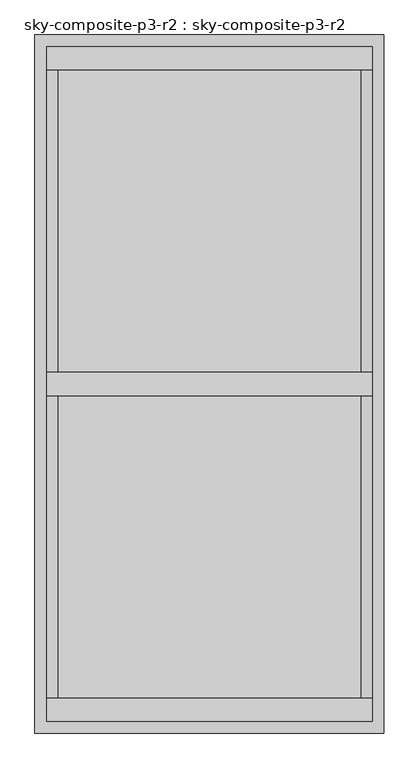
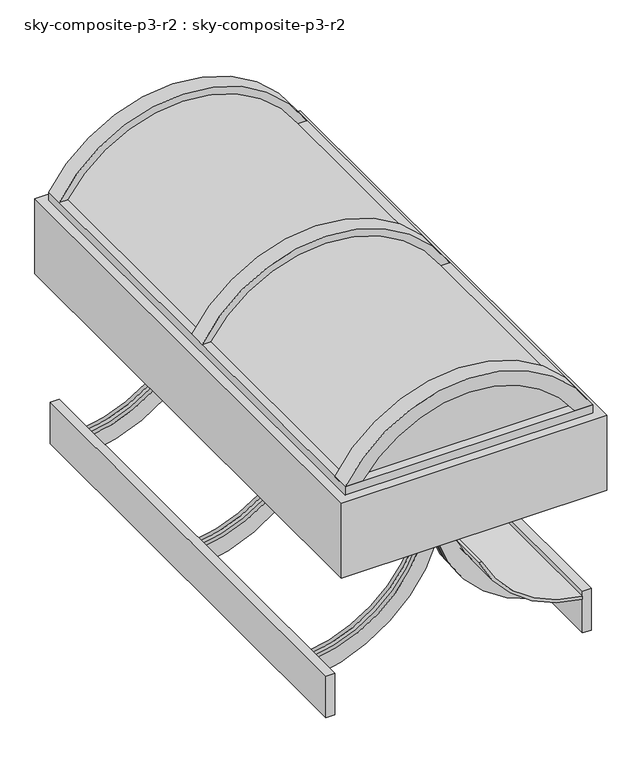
"""IFC4 building model written with IfcOpenShell, lengths in millimetres: proxy geometry, sky-composite-p3-r2 : sky-composite-p3-r2."""

from ifc_helpers import new_model, si_unit, point, frame, frame_2d, origin, place, context, project, spatial, polyline, circle_curve, trimmed, segment, composite_curve, outline, extrude, source, transform, mapped, element, save


def sky_composite_p3_r2_sky_composite_p3_r2_fa0c1734(model_context):
    return source(origin(), model_context, "Body", "SweptSolid", [
        extrude(outline(composite_curve([segment(polyline([(3225.8, 711.2), (3244.85, 711.2)]), True, "CONTINUOUS"), segment(trimmed(circle_curve(frame_2d((3952.7013555, 781.2886484)), 711.3128427), [point((3244.85, 711.2))], [point((3657.6, 134.0783656))], True, "CARTESIAN"), True, "CONTINUOUS"), segment(polyline([(3657.6, 134.0783656), (3657.6, 115.0283656)]), True, "CONTINUOUS"), segment(trimmed(circle_curve(frame_2d((3967.397296, 793.8704606)), 746.1909638), [point((3657.6, 115.0283656))], [point((3225.8, 711.2))], False, "CARTESIAN"), True, "CONTINUOUS")], self_intersect=False)), frame((0.0, -1371.6, 0.0), z_axis=(0.0, 1.0, 0.0), x_axis=(0.0, 0.0, 1.0)), (0.0, 0.0, 1.0), 2743.2),
        extrude(outline(polyline([(-711.2, -1371.6), (-762.0, -1371.6), (-762.0, 1371.6), (-711.2, 1371.6), (-711.2, -1371.6)])), frame((0.0, 0.0, 3022.6), z_axis=(0.0, 0.0, 1.0), x_axis=(1.0, 0.0, 0.0)), (0.0, 0.0, 1.0), 254.0),
        extrude(outline(polyline([(762.0, -1371.6), (711.2, -1371.6), (711.2, 1371.6), (762.0, 1371.6), (762.0, -1371.6)])), frame((0.0, 0.0, 3022.6), z_axis=(0.0, 0.0, 1.0), x_axis=(1.0, 0.0, 0.0)), (0.0, 0.0, 1.0), 254.0),
        extrude(outline(composite_curve([segment(polyline([(3225.8, -711.2), (3124.2, -711.2)]), True, "CONTINUOUS"), segment(trimmed(circle_curve(frame_2d((3965.0062096, -804.0034828)), 845.91227), [point((3124.2, -711.2))], [point((3702.05, 0.0))], False, "CARTESIAN"), True, "CONTINUOUS"), segment(trimmed(circle_curve(frame_2d((3934.8631689, 779.5122622)), 813.5363167), [point((3702.05, 0.0))], [point((3124.2, 711.2))], False, "CARTESIAN"), True, "CONTINUOUS"), segment(polyline([(3124.2, 711.2), (3225.8, 711.2)]), True, "CONTINUOUS"), segment(trimmed(circle_curve(frame_2d((3958.4491211, 787.3894043)), 736.6), [point((3225.8, 711.2))], [point((3962.4, 50.8))], True, "CARTESIAN"), True, "CONTINUOUS"), segment(polyline([(3962.4, 50.8), (3962.4, -50.8)]), True, "CONTINUOUS"), segment(trimmed(circle_curve(frame_2d((3958.4491211, -787.3894043)), 736.6), [point((3962.4, -50.8))], [point((3225.8, -711.2))], True, "CARTESIAN"), True, "CONTINUOUS")], self_intersect=False)), frame((0.0, 1130.3, 0.0), z_axis=(0.0, 1.0, 0.0), x_axis=(0.0, 0.0, 1.0)), (0.0, 0.0, 1.0), 25.4),
        extrude(outline(composite_curve([segment(polyline([(3225.8, -711.2), (3124.2, -711.2)]), True, "CONTINUOUS"), segment(trimmed(circle_curve(frame_2d((3965.0062096, -804.0034828)), 845.91227), [point((3124.2, -711.2))], [point((3702.05, 0.0))], False, "CARTESIAN"), True, "CONTINUOUS"), segment(trimmed(circle_curve(frame_2d((3934.8631689, 779.5122622)), 813.5363167), [point((3702.05, 0.0))], [point((3124.2, 711.2))], False, "CARTESIAN"), True, "CONTINUOUS"), segment(polyline([(3124.2, 711.2), (3225.8, 711.2)]), True, "CONTINUOUS"), segment(trimmed(circle_curve(frame_2d((3958.4491211, 787.3894043)), 736.6), [point((3225.8, 711.2))], [point((3962.4, 50.8))], True, "CARTESIAN"), True, "CONTINUOUS"), segment(polyline([(3962.4, 50.8), (3962.4, -50.8)]), True, "CONTINUOUS"), segment(trimmed(circle_curve(frame_2d((3958.4491211, -787.3894043)), 736.6), [point((3962.4, -50.8))], [point((3225.8, -711.2))], True, "CARTESIAN"), True, "CONTINUOUS")], self_intersect=False)), frame((0.0, 1079.5, 0.0), z_axis=(0.0, 1.0, 0.0), x_axis=(0.0, 0.0, 1.0)), (0.0, 0.0, 1.0), 25.4),
        extrude(outline(composite_curve([segment(polyline([(3225.8, -711.2), (3124.2, -711.2)]), True, "CONTINUOUS"), segment(trimmed(circle_curve(frame_2d((3965.0062096, -804.0034828)), 845.91227), [point((3124.2, -711.2))], [point((3702.05, 0.0))], False, "CARTESIAN"), True, "CONTINUOUS"), segment(trimmed(circle_curve(frame_2d((3934.8631689, 779.5122622)), 813.5363167), [point((3702.05, 0.0))], [point((3124.2, 711.2))], False, "CARTESIAN"), True, "CONTINUOUS"), segment(polyline([(3124.2, 711.2), (3225.8, 711.2)]), True, "CONTINUOUS"), segment(trimmed(circle_curve(frame_2d((3958.4491211, 787.3894043)), 736.6), [point((3225.8, 711.2))], [point((3962.4, 50.8))], True, "CARTESIAN"), True, "CONTINUOUS"), segment(polyline([(3962.4, 50.8), (3962.4, -50.8)]), True, "CONTINUOUS"), segment(trimmed(circle_curve(frame_2d((3958.4491211, -787.3894043)), 736.6), [point((3962.4, -50.8))], [point((3225.8, -711.2))], True, "CARTESIAN"), True, "CONTINUOUS")], self_intersect=False)), frame((0.0, 12.7, 0.0), z_axis=(0.0, 1.0, 0.0), x_axis=(0.0, 0.0, 1.0)), (0.0, 0.0, 1.0), 25.4),
        extrude(outline(composite_curve([segment(polyline([(3225.8, -711.2), (3124.2, -711.2)]), True, "CONTINUOUS"), segment(trimmed(circle_curve(frame_2d((3965.0062096, -804.0034828)), 845.91227), [point((3124.2, -711.2))], [point((3702.05, 0.0))], False, "CARTESIAN"), True, "CONTINUOUS"), segment(trimmed(circle_curve(frame_2d((3934.8631689, 779.5122622)), 813.5363167), [point((3702.05, 0.0))], [point((3124.2, 711.2))], False, "CARTESIAN"), True, "CONTINUOUS"), segment(polyline([(3124.2, 711.2), (3225.8, 711.2)]), True, "CONTINUOUS"), segment(trimmed(circle_curve(frame_2d((3958.4491211, 787.3894043)), 736.6), [point((3225.8, 711.2))], [point((3962.4, 50.8))], True, "CARTESIAN"), True, "CONTINUOUS"), segment(polyline([(3962.4, 50.8), (3962.4, -50.8)]), True, "CONTINUOUS"), segment(trimmed(circle_curve(frame_2d((3958.4491211, -787.3894043)), 736.6), [point((3962.4, -50.8))], [point((3225.8, -711.2))], True, "CARTESIAN"), True, "CONTINUOUS")], self_intersect=False)), frame((0.0, -38.1, 0.0), z_axis=(0.0, 1.0, 0.0), x_axis=(0.0, 0.0, 1.0)), (0.0, 0.0, 1.0), 25.4),
        extrude(outline(composite_curve([segment(polyline([(3225.8, -711.2), (3124.2, -711.2)]), True, "CONTINUOUS"), segment(trimmed(circle_curve(frame_2d((3965.0062096, -804.0034828)), 845.91227), [point((3124.2, -711.2))], [point((3702.05, 0.0))], False, "CARTESIAN"), True, "CONTINUOUS"), segment(trimmed(circle_curve(frame_2d((3934.8631689, 779.5122622)), 813.5363167), [point((3702.05, 0.0))], [point((3124.2, 711.2))], False, "CARTESIAN"), True, "CONTINUOUS"), segment(polyline([(3124.2, 711.2), (3225.8, 711.2)]), True, "CONTINUOUS"), segment(trimmed(circle_curve(frame_2d((3958.4491211, 787.3894043)), 736.6), [point((3225.8, 711.2))], [point((3962.4, 50.8))], True, "CARTESIAN"), True, "CONTINUOUS"), segment(polyline([(3962.4, 50.8), (3962.4, -50.8)]), True, "CONTINUOUS"), segment(trimmed(circle_curve(frame_2d((3958.4491211, -787.3894043)), 736.6), [point((3962.4, -50.8))], [point((3225.8, -711.2))], True, "CARTESIAN"), True, "CONTINUOUS")], self_intersect=False)), frame((0.0, -1104.9, 0.0), z_axis=(0.0, 1.0, 0.0), x_axis=(0.0, 0.0, 1.0)), (0.0, 0.0, 1.0), 25.4),
        extrude(outline(composite_curve([segment(polyline([(3225.8, -711.2), (3124.2, -711.2)]), True, "CONTINUOUS"), segment(trimmed(circle_curve(frame_2d((3965.0062096, -804.0034828)), 845.91227), [point((3124.2, -711.2))], [point((3702.05, 0.0))], False, "CARTESIAN"), True, "CONTINUOUS"), segment(trimmed(circle_curve(frame_2d((3934.8631689, 779.5122622)), 813.5363167), [point((3702.05, 0.0))], [point((3124.2, 711.2))], False, "CARTESIAN"), True, "CONTINUOUS"), segment(polyline([(3124.2, 711.2), (3225.8, 711.2)]), True, "CONTINUOUS"), segment(trimmed(circle_curve(frame_2d((3958.4491211, 787.3894043)), 736.6), [point((3225.8, 711.2))], [point((3962.4, 50.8))], True, "CARTESIAN"), True, "CONTINUOUS"), segment(polyline([(3962.4, 50.8), (3962.4, -50.8)]), True, "CONTINUOUS"), segment(trimmed(circle_curve(frame_2d((3958.4491211, -787.3894043)), 736.6), [point((3962.4, -50.8))], [point((3225.8, -711.2))], True, "CARTESIAN"), True, "CONTINUOUS")], self_intersect=False)), frame((0.0, -1155.7, 0.0), z_axis=(0.0, 1.0, 0.0), x_axis=(0.0, 0.0, 1.0)), (0.0, 0.0, 1.0), 25.4),
        extrude(outline(polyline([(3987.8, -76.2), (3962.4, -76.2), (3962.4, 76.2), (3987.8, 76.2), (3987.8, 12.7), (4191.0, 12.7), (4191.0, 76.2), (4216.4, 76.2), (4216.4, -76.2), (4191.0, -76.2), (4191.0, -12.7), (3987.8, -12.7), (3987.8, -76.2)])), frame((0.0, -1371.6, 0.0), z_axis=(0.0, 1.0, 0.0), x_axis=(0.0, 0.0, 1.0)), (0.0, 0.0, 1.0), 2743.2),
        extrude(outline(composite_curve([segment(trimmed(circle_curve(frame_2d((4053.564783, 0.0)), 738.48748), [point((4470.4, 609.6))], [point((4470.4, -609.6))], False, "CARTESIAN"), True, "CONTINUOUS"), segment(polyline([(4470.4, -609.6), (4470.4, 609.6)]), True, "CONTINUOUS")], self_intersect=False)), frame((0.0, 1397.0, 0.0), z_axis=(0.0, 1.0, 0.0), x_axis=(0.0, 0.0, 1.0)), (0.0, 0.0, 1.0), 25.4),
        extrude(outline(composite_curve([segment(trimmed(circle_curve(frame_2d((4055.5049513, 0.0)), 737.3941018), [point((4470.4, 609.6))], [point((4470.4, -609.6))], False, "CARTESIAN"), True, "CONTINUOUS"), segment(polyline([(4470.4, -609.6), (4470.4, 609.6)]), True, "CONTINUOUS")], self_intersect=False)), frame((0.0, -1422.4, 0.0), z_axis=(0.0, 1.0, 0.0), x_axis=(0.0, 0.0, 1.0)), (0.0, 0.0, 1.0), 25.4),
        extrude(outline(composite_curve([segment(trimmed(circle_curve(frame_2d((4058.4042755, 0.0)), 778.37564), [point((4470.4, 660.4))], [point((4470.4, -660.4))], False, "CARTESIAN"), True, "CONTINUOUS"), segment(polyline([(4470.4, -660.4), (4470.4, -635.0)]), True, "CONTINUOUS"), segment(trimmed(circle_curve(frame_2d((4054.5937118, 0.0)), 759.0256051), [point((4470.4, -635.0))], [point((4470.4, 635.0))], True, "CARTESIAN"), True, "CONTINUOUS"), segment(polyline([(4470.4, 635.0), (4470.4, 660.4)]), True, "CONTINUOUS")], self_intersect=False)), frame((0.0, 50.8, 0.0), z_axis=(0.0, 1.0, 0.0), x_axis=(0.0, 0.0, 1.0)), (0.0, 0.0, 1.0), 1320.8),
        extrude(outline(composite_curve([segment(polyline([(4470.4, 635.0), (4470.4, 660.4)]), True, "CONTINUOUS"), segment(trimmed(circle_curve(frame_2d((4059.3064295, 0.0)), 777.8985048), [point((4470.4, 660.4))], [point((4470.4, -660.4))], False, "CARTESIAN"), True, "CONTINUOUS"), segment(polyline([(4470.4, -660.4), (4470.4, -635.0)]), True, "CONTINUOUS"), segment(trimmed(circle_curve(frame_2d((4058.0562177, 0.0)), 757.1343307), [point((4470.4, -635.0))], [point((4470.4, 635.0))], True, "CARTESIAN"), True, "CONTINUOUS")], self_intersect=False)), frame((0.0, -1371.6, 0.0), z_axis=(0.0, 1.0, 0.0), x_axis=(0.0, 0.0, 1.0)), (0.0, 0.0, 1.0), 1320.8),
        extrude(outline(composite_curve([segment(trimmed(circle_curve(frame_2d((4058.4057468, 0.0)), 821.9152661), [point((4470.4, 711.2))], [point((4470.4, -711.2))], False, "CARTESIAN"), True, "CONTINUOUS"), segment(polyline([(4470.4, -711.2), (4470.4, -609.6)]), True, "CONTINUOUS"), segment(trimmed(circle_curve(frame_2d((4056.3722653, 0.0)), 736.9064561), [point((4470.4, -609.6))], [point((4470.4, 609.6))], True, "CARTESIAN"), True, "CONTINUOUS"), segment(polyline([(4470.4, 609.6), (4470.4, 711.2)]), True, "CONTINUOUS")], self_intersect=False)), frame((0.0, -50.8, 0.0), z_axis=(0.0, 1.0, 0.0), x_axis=(0.0, 0.0, 1.0)), (0.0, 0.0, 1.0), 101.6),
        extrude(outline(composite_curve([segment(polyline([(4470.4, -711.2), (4470.4, -609.6)]), True, "CONTINUOUS"), segment(trimmed(circle_curve(frame_2d((4058.446492, 0.0)), 735.7430616), [point((4470.4, -609.6))], [point((4470.4, 609.6))], True, "CARTESIAN"), True, "CONTINUOUS"), segment(polyline([(4470.4, 609.6), (4470.4, 711.2)]), True, "CONTINUOUS"), segment(trimmed(circle_curve(frame_2d((4058.5851189, 0.0)), 821.8253685), [point((4470.4, 711.2))], [point((4470.4, -711.2))], False, "CARTESIAN"), True, "CONTINUOUS")], self_intersect=False)), frame((0.0, 1371.6, 0.0), z_axis=(0.0, 1.0, 0.0), x_axis=(0.0, 0.0, 1.0)), (0.0, 0.0, 1.0), 101.6),
        extrude(outline(composite_curve([segment(trimmed(circle_curve(frame_2d((4058.564975, 0.0)), 821.8354627), [point((4470.4, 711.2))], [point((4470.4, -711.2))], False, "CARTESIAN"), True, "CONTINUOUS"), segment(polyline([(4470.4, -711.2), (4470.4, -609.6)]), True, "CONTINUOUS"), segment(trimmed(circle_curve(frame_2d((4057.6572364, 0.0)), 736.185268), [point((4470.4, -609.6))], [point((4470.4, 609.6))], True, "CARTESIAN"), True, "CONTINUOUS"), segment(polyline([(4470.4, 609.6), (4470.4, 711.2)]), True, "CONTINUOUS")], self_intersect=False)), frame((0.0, -1473.2, 0.0), z_axis=(0.0, 1.0, 0.0), x_axis=(0.0, 0.0, 1.0)), (0.0, 0.0, 1.0), 101.6),
        extrude(outline(polyline([(711.2, 1473.2), (711.2, -1473.2), (-711.2, -1473.2), (-711.2, 1473.2), (711.2, 1473.2)]), holes=[polyline([(609.6, 1371.6), (-609.6, 1371.6), (-609.6, -1371.6), (609.6, -1371.6), (609.6, 1371.6)])]), frame((0.0, 0.0, 4419.6), z_axis=(0.0, 0.0, 1.0), x_axis=(1.0, 0.0, 0.0)), (0.0, 0.0, 1.0), 50.8),
        extrude(outline(polyline([(762.0, 1524.0), (762.0, -1524.0), (-762.0, -1524.0), (-762.0, 1524.0), (762.0, 1524.0)]), holes=[polyline([(609.6, 1371.6), (-609.6, 1371.6), (-609.6, -1371.6), (609.6, -1371.6), (609.6, 1371.6)])]), frame((0.0, 0.0, 3962.4), z_axis=(0.0, 0.0, 1.0), x_axis=(1.0, 0.0, 0.0)), (0.0, 0.0, 1.0), 457.2),
    ])


if __name__ == "__main__":
    model = new_model("IFC4")
    model_context = context("Model", 3, world=origin())
    ifc_project = project(units=[si_unit("LENGTHUNIT", "METRE", prefix="MILLI")], contexts=[model_context])
    site = spatial("IfcSite", under=ifc_project)
    building = spatial("IfcBuilding", under=site)
    placement = place(None, origin())
    sky_composite_p3_r2_sky_composite_p3_r2_shape = sky_composite_p3_r2_sky_composite_p3_r2_fa0c1734(model_context)
    element("IfcBuildingElementProxy", 1, Name="sky-composite-p3-r2 : sky-composite-p3-r2", ObjectType="sky-composite-p3-r2 : sky-composite-p3-r2", at=placement, inside=building, context=model_context, shape_type="MappedRepresentation", body=[
        mapped(sky_composite_p3_r2_sky_composite_p3_r2_shape, transform((0.0, 0.0, 0.0), x_axis=(1.0, 0.0, 0.0), y_axis=(0.0, 1.0, 0.0), z_axis=(0.0, 0.0, 1.0))),
    ])
    save(model, "model.ifc")
